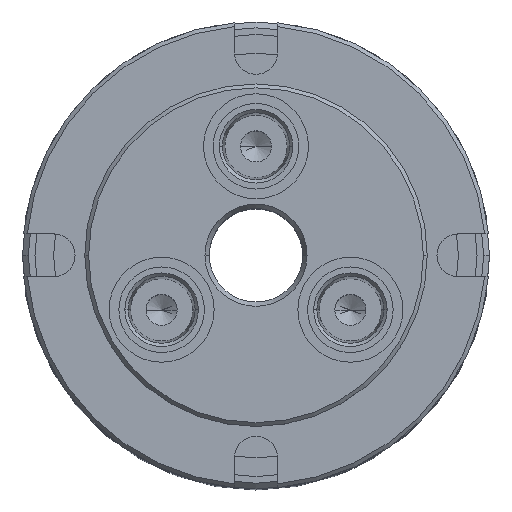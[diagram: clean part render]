
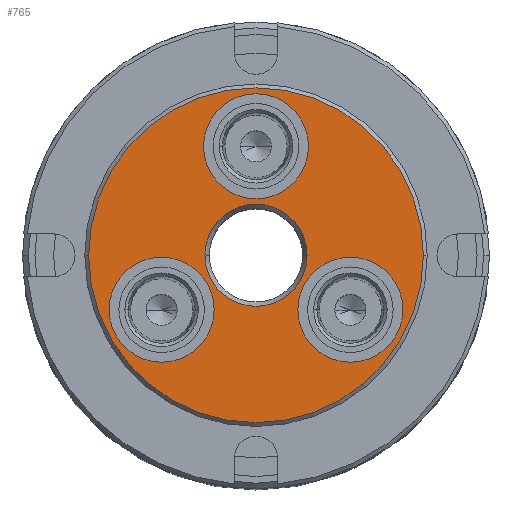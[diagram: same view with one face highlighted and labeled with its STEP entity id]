
A CAD part, top view. The second image highlights one B-rep face of the part: STEP entity #765.
In plain terms, the highlighted planar face has unit normal (0, 0, 1).
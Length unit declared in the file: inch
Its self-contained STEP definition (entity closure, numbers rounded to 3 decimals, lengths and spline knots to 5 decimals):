
#16 = CIRCLE ( 'NONE', #24, 1.344 ) ;
#24 = AXIS2_PLACEMENT_3D ( 'NONE', #1666, #1667, #1668 ) ;
#47 = EDGE_LOOP ( 'NONE', ( #4904, #4903 ) ) ;
#85 = EDGE_LOOP ( 'NONE', ( #4906, #4905 ) ) ;
#134 = EDGE_LOOP ( 'NONE', ( #4912, #4911 ) ) ;
#154 = EDGE_LOOP ( 'NONE', ( #4910, #4909 ) ) ;
#184 = EDGE_LOOP ( 'NONE', ( #4908, #4907 ) ) ;
#348 = EDGE_CURVE ( 'NONE', #3256, #3255, #2323, .T. ) ;
#407 = EDGE_CURVE ( 'NONE', #3353, #3347, #934, .T. ) ;
#418 = EDGE_CURVE ( 'NONE', #3171, #3228, #933, .T. ) ;
#439 = EDGE_CURVE ( 'NONE', #3279, #3324, #16, .T. ) ;
#470 = EDGE_CURVE ( 'NONE', #3292, #3297, #2238, .T. ) ;
#543 = EDGE_CURVE ( 'NONE', #3347, #3353, #2279, .T. ) ;
#636 = EDGE_CURVE ( 'NONE', #3228, #3171, #2113, .T. ) ;
#733 = EDGE_CURVE ( 'NONE', #3324, #3279, #2671, .T. ) ;
#753 = EDGE_CURVE ( 'NONE', #3297, #3292, #2709, .T. ) ;
#765 = ADVANCED_FACE ( 'NONE', ( #6021, #6016, #6024, #6022, #6020 ), #6023, .F. ) ;
#836 = EDGE_CURVE ( 'NONE', #3255, #3256, #2828, .T. ) ;
#930 = AXIS2_PLACEMENT_3D ( 'NONE', #1520, #1521, #1522 ) ;
#933 = CIRCLE ( 'NONE', #942, 0.4215 ) ;
#934 = CIRCLE ( 'NONE', #930, 0.4215 ) ;
#942 = AXIS2_PLACEMENT_3D ( 'NONE', #1556, #1557, #1558 ) ;
#1247 = CARTESIAN_POINT ( 'NONE',  ( 0., 0., 0. ) ) ;
#1248 = DIRECTION ( 'NONE',  ( 0., 0., -1. ) ) ;
#1249 = DIRECTION ( 'NONE',  ( -1., 0., 0. ) ) ;
#1520 = CARTESIAN_POINT ( 'NONE',  ( 0.75777, -0.4375, 0. ) ) ;
#1521 = DIRECTION ( 'NONE',  ( 0., 0., 1. ) ) ;
#1522 = DIRECTION ( 'NONE',  ( -0.5, -0.866, 0. ) ) ;
#1556 = CARTESIAN_POINT ( 'NONE',  ( -0.75777, -0.4375, 0. ) ) ;
#1557 = DIRECTION ( 'NONE',  ( 0., 0., 1. ) ) ;
#1558 = DIRECTION ( 'NONE',  ( -0.5, 0.866, 0. ) ) ;
#1666 = CARTESIAN_POINT ( 'NONE',  ( 0., 0., 0. ) ) ;
#1667 = DIRECTION ( 'NONE',  ( 0., 0., 1. ) ) ;
#1668 = DIRECTION ( 'NONE',  ( -1., 0., 0. ) ) ;
#1843 = CARTESIAN_POINT ( 'NONE',  ( 0., 0.875, 0. ) ) ;
#1844 = DIRECTION ( 'NONE',  ( 0., 0., 1. ) ) ;
#1845 = DIRECTION ( 'NONE',  ( 1., 0., 0. ) ) ;
#2024 = AXIS2_PLACEMENT_3D ( 'NONE', #1843, #1844, #1845 ) ;
#2089 = AXIS2_PLACEMENT_3D ( 'NONE', #3991, #3992, #3993 ) ;
#2102 = AXIS2_PLACEMENT_3D ( 'NONE', #3537, #3538, #3539 ) ;
#2113 = CIRCLE ( 'NONE', #2089, 0.4215 ) ;
#2238 = CIRCLE ( 'NONE', #2024, 0.4215 ) ;
#2279 = CIRCLE ( 'NONE', #2102, 0.4215 ) ;
#2323 = CIRCLE ( 'NONE', #2372, 0.41 ) ;
#2372 = AXIS2_PLACEMENT_3D ( 'NONE', #1247, #1248, #1249 ) ;
#2670 = AXIS2_PLACEMENT_3D ( 'NONE', #5853, #5854, #5855 ) ;
#2671 = CIRCLE ( 'NONE', #2670, 1.344 ) ;
#2708 = AXIS2_PLACEMENT_3D ( 'NONE', #5962, #5963, #5964 ) ;
#2709 = CIRCLE ( 'NONE', #2708, 0.4215 ) ;
#2722 = AXIS2_PLACEMENT_3D ( 'NONE', #6025, #6026, #6027 ) ;
#2826 = AXIS2_PLACEMENT_3D ( 'NONE', #6322, #6323, #6324 ) ;
#2828 = CIRCLE ( 'NONE', #2826, 0.41 ) ;
#2988 = CARTESIAN_POINT ( 'NONE',  ( -1.344, 0., 0. ) ) ;
#3011 = CARTESIAN_POINT ( 'NONE',  ( 0.33627, -0.4375, 0. ) ) ;
#3016 = CARTESIAN_POINT ( 'NONE',  ( 1.17927, -0.4375, 0. ) ) ;
#3171 = VERTEX_POINT ( 'NONE', #6714 ) ;
#3228 = VERTEX_POINT ( 'NONE', #6771 ) ;
#3255 = VERTEX_POINT ( 'NONE', #6798 ) ;
#3256 = VERTEX_POINT ( 'NONE', #6799 ) ;
#3279 = VERTEX_POINT ( 'NONE', #6821 ) ;
#3292 = VERTEX_POINT ( 'NONE', #6831 ) ;
#3297 = VERTEX_POINT ( 'NONE', #6836 ) ;
#3324 = VERTEX_POINT ( 'NONE', #2988 ) ;
#3347 = VERTEX_POINT ( 'NONE', #3011 ) ;
#3353 = VERTEX_POINT ( 'NONE', #3016 ) ;
#3537 = CARTESIAN_POINT ( 'NONE',  ( 0.75777, -0.4375, 0. ) ) ;
#3538 = DIRECTION ( 'NONE',  ( 0., 0., 1. ) ) ;
#3539 = DIRECTION ( 'NONE',  ( -0.5, -0.866, 0. ) ) ;
#3991 = CARTESIAN_POINT ( 'NONE',  ( -0.75777, -0.4375, 0. ) ) ;
#3992 = DIRECTION ( 'NONE',  ( 0., 0., 1. ) ) ;
#3993 = DIRECTION ( 'NONE',  ( -0.5, 0.866, 0. ) ) ;
#4903 = ORIENTED_EDGE ( 'NONE', *, *, #439, .T. ) ;
#4904 = ORIENTED_EDGE ( 'NONE', *, *, #733, .T. ) ;
#4905 = ORIENTED_EDGE ( 'NONE', *, *, #470, .F. ) ;
#4906 = ORIENTED_EDGE ( 'NONE', *, *, #753, .F. ) ;
#4907 = ORIENTED_EDGE ( 'NONE', *, *, #543, .F. ) ;
#4908 = ORIENTED_EDGE ( 'NONE', *, *, #407, .F. ) ;
#4909 = ORIENTED_EDGE ( 'NONE', *, *, #418, .F. ) ;
#4910 = ORIENTED_EDGE ( 'NONE', *, *, #636, .F. ) ;
#4911 = ORIENTED_EDGE ( 'NONE', *, *, #836, .T. ) ;
#4912 = ORIENTED_EDGE ( 'NONE', *, *, #348, .T. ) ;
#5853 = CARTESIAN_POINT ( 'NONE',  ( 0., 0., 0. ) ) ;
#5854 = DIRECTION ( 'NONE',  ( 0., 0., 1. ) ) ;
#5855 = DIRECTION ( 'NONE',  ( -1., 0., 0. ) ) ;
#5962 = CARTESIAN_POINT ( 'NONE',  ( 0., 0.875, 0. ) ) ;
#5963 = DIRECTION ( 'NONE',  ( 0., 0., 1. ) ) ;
#5964 = DIRECTION ( 'NONE',  ( 1., 0., 0. ) ) ;
#6016 = FACE_BOUND ( 'NONE', #154, .T. ) ;
#6020 = FACE_OUTER_BOUND ( 'NONE', #47, .T. ) ;
#6021 = FACE_BOUND ( 'NONE', #134, .T. ) ;
#6022 = FACE_BOUND ( 'NONE', #85, .T. ) ;
#6023 = PLANE ( 'NONE',  #2722 ) ;
#6024 = FACE_BOUND ( 'NONE', #184, .T. ) ;
#6025 = CARTESIAN_POINT ( 'NONE',  ( 0., 0., 0. ) ) ;
#6026 = DIRECTION ( 'NONE',  ( 0., 0., -1. ) ) ;
#6027 = DIRECTION ( 'NONE',  ( -1., 0., 0. ) ) ;
#6322 = CARTESIAN_POINT ( 'NONE',  ( 0., 0., 0. ) ) ;
#6323 = DIRECTION ( 'NONE',  ( 0., 0., -1. ) ) ;
#6324 = DIRECTION ( 'NONE',  ( -1., 0., 0. ) ) ;
#6714 = CARTESIAN_POINT ( 'NONE',  ( -1.17927, -0.4375, 0. ) ) ;
#6771 = CARTESIAN_POINT ( 'NONE',  ( -0.33627, -0.4375, 0. ) ) ;
#6798 = CARTESIAN_POINT ( 'NONE',  ( -0.41, 0., 0. ) ) ;
#6799 = CARTESIAN_POINT ( 'NONE',  ( 0.41, 0., 0. ) ) ;
#6821 = CARTESIAN_POINT ( 'NONE',  ( 1.344, 0., 0. ) ) ;
#6831 = CARTESIAN_POINT ( 'NONE',  ( -0.4215, 0.875, 0. ) ) ;
#6836 = CARTESIAN_POINT ( 'NONE',  ( 0.4215, 0.875, 0. ) ) ;
